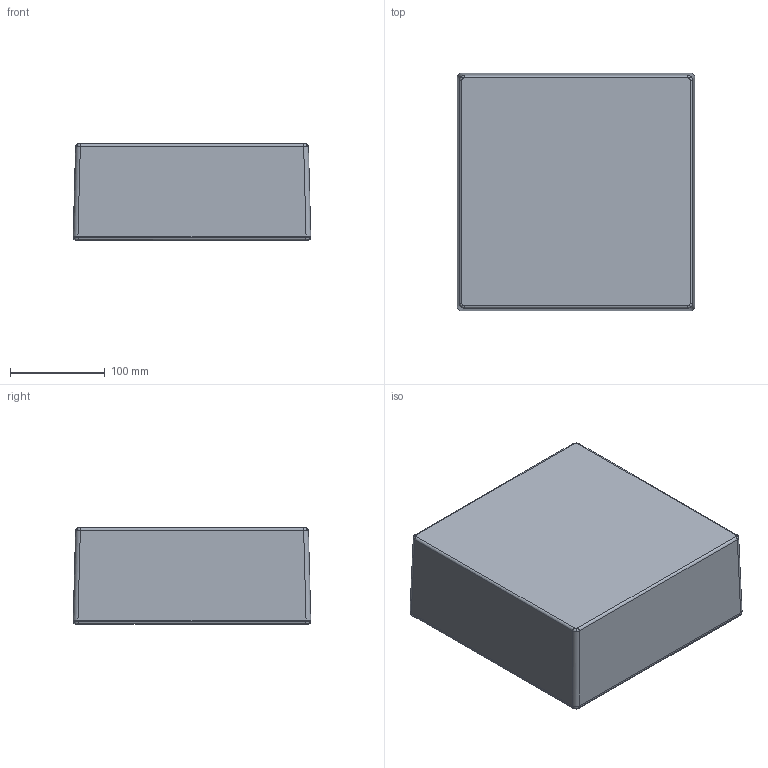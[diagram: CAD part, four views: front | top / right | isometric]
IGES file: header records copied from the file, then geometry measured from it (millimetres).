
Global section: file name: 1550N.iam; native system: Autodesk Inventor 2014; preprocessor: unknown; author: fwarzocha; date: 20141029.101357; units: millimetre
Bounding box: 250.2 x 250.2 x 101.3 mm (x, y, z)
Volume: 581996.7 mm3; surface area: 443986.2 mm2
Topology: 10 solids, 10 shells, 1233 faces, 3307 edges, 2155 vertices
Faces by surface type: plane 476, bspline 415, revolution 230, cone 56, cylinder 56
Full cylindrical faces by diameter (mm): 3.43 x8
